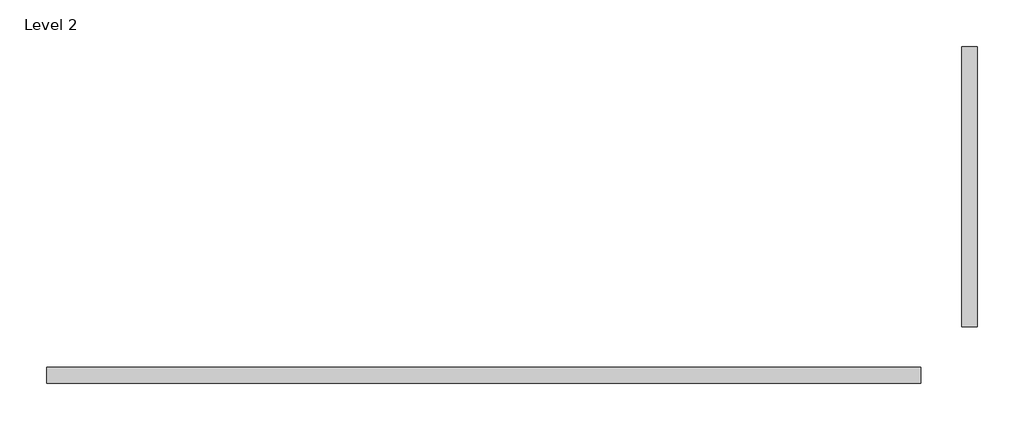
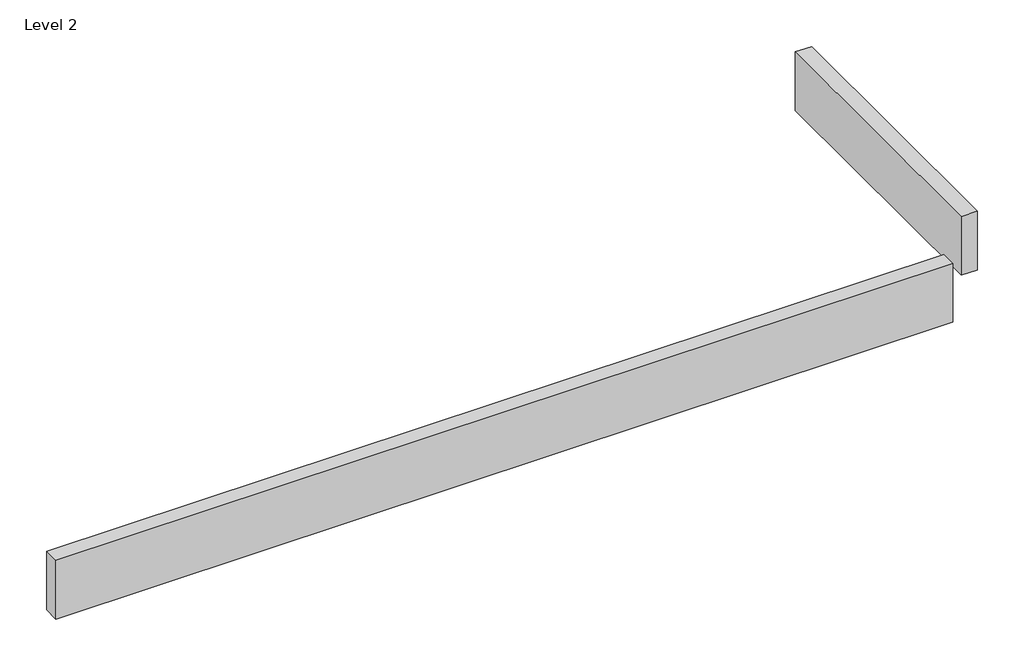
# One storey: 2 proxies.
"""IFC4 building model written with IfcOpenShell, lengths in millimetres."""

from ifc_helpers import new_model, si_unit, origin, place, context, project, spatial, transform, mapped, element, save
from components import white_5b7825d7, white_85fdcce9

model = new_model("IFC4")

# Units and contexts
model_context = context("Model", 3, world=origin())
ifc_project = project(units=[si_unit("LENGTHUNIT", "METRE", prefix="MILLI")], contexts=[model_context])

# Site, building, storey
site = spatial("IfcSite", under=ifc_project)
building = spatial("IfcBuilding", under=site)
storey = spatial("IfcBuildingStorey", under=building, Name="Level 2", Elevation=3048.0)

# Proxies
placement = place(None, origin())
white_shape = white_5b7825d7(model_context)
element("IfcBuildingElementProxy", 1, Name="Raceway-5500_Series-Wiremold-Multi_Channel : White", ObjectType="Raceway-5500_Series-Wiremold-Multi_Channel : White", at=placement, inside=storey, context=model_context, shape_type="MappedRepresentation", body=[
    mapped(white_shape, transform((-4755.4582561, 2568.6914407, 3533.936036), x_axis=(1.0, 0.0, 0.0), y_axis=(0.0, 0.0, 1.0), z_axis=(0.0, -1.0, 0.0))),
])
white_2_shape = white_85fdcce9(model_context)
element("IfcBuildingElementProxy", 2, Name="Raceway-5500_Series-Wiremold-Multi_Channel : White", ObjectType="Raceway-5500_Series-Wiremold-Multi_Channel : White", at=placement, inside=storey, context=model_context, shape_type="MappedRepresentation", body=[
    mapped(white_2_shape, transform((-2183.4535942, 2682.9914407, 3533.936036), x_axis=(0.0, 1.0, 0.0), y_axis=(0.0, 0.0, 1.0), z_axis=(1.0, 0.0, 0.0))),
])

save(model, "model.ifc")
